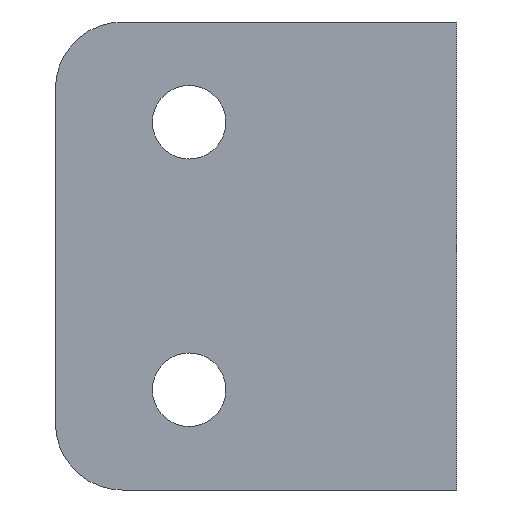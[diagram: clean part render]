
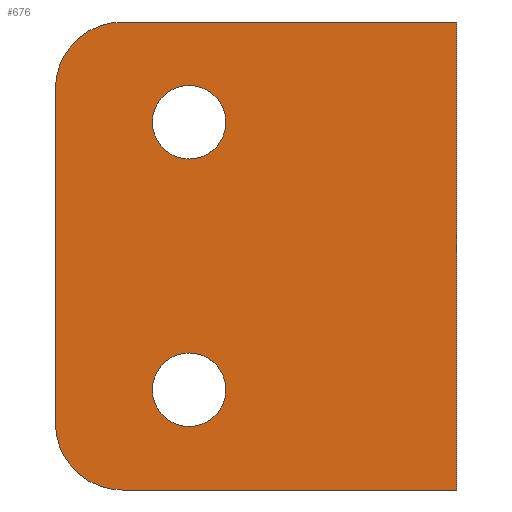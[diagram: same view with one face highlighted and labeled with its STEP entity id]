
A CAD part, front view. The second image highlights one B-rep face of the part: STEP entity #676.
In plain terms, the highlighted planar face has unit normal (0, -1, 0).
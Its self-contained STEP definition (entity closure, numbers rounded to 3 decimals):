
#7 = VERTEX_POINT ( 'NONE', #314 ) ;
#9 = EDGE_CURVE ( 'NONE', #166, #853, #228, .T. ) ;
#15 = ORIENTED_EDGE ( 'NONE', *, *, #106, .T. ) ;
#20 = CIRCLE ( 'NONE', #595, 2.75 ) ;
#22 = VECTOR ( 'NONE', #753, 1000. ) ;
#37 = DIRECTION ( 'NONE',  ( -1., 0., 0. ) ) ;
#44 = DIRECTION ( 'NONE',  ( 0., 1., 0. ) ) ;
#45 = CARTESIAN_POINT ( 'NONE',  ( -30., 0., 12.5 ) ) ;
#47 = VECTOR ( 'NONE', #777, 1000. ) ;
#56 = CARTESIAN_POINT ( 'NONE',  ( -30., 0., 17.5 ) ) ;
#92 = EDGE_CURVE ( 'NONE', #724, #282, #346, .T. ) ;
#106 = EDGE_CURVE ( 'NONE', #586, #166, #142, .T. ) ;
#122 = DIRECTION ( 'NONE',  ( 0., 1., 0. ) ) ;
#142 = CIRCLE ( 'NONE', #246, 5. ) ;
#146 = CIRCLE ( 'NONE', #663, 5. ) ;
#151 = AXIS2_PLACEMENT_3D ( 'NONE', #565, #169, #624 ) ;
#154 = VERTEX_POINT ( 'NONE', #842 ) ;
#155 = DIRECTION ( 'NONE',  ( 1., 0., 0. ) ) ;
#166 = VERTEX_POINT ( 'NONE', #45 ) ;
#169 = DIRECTION ( 'NONE',  ( 0., 1., 0. ) ) ;
#181 = EDGE_CURVE ( 'NONE', #282, #724, #20, .T. ) ;
#203 = FACE_BOUND ( 'NONE', #678, .T. ) ;
#227 = ORIENTED_EDGE ( 'NONE', *, *, #387, .T. ) ;
#228 = LINE ( 'NONE', #56, #47 ) ;
#239 = PLANE ( 'NONE',  #597 ) ;
#246 = AXIS2_PLACEMENT_3D ( 'NONE', #495, #832, #37 ) ;
#265 = DIRECTION ( 'NONE',  ( 0., -1., 0. ) ) ;
#266 = DIRECTION ( 'NONE',  ( 0., 1., 0. ) ) ;
#269 = ORIENTED_EDGE ( 'NONE', *, *, #92, .T. ) ;
#270 = CARTESIAN_POINT ( 'NONE',  ( -20., 0., 7.25 ) ) ;
#275 = DIRECTION ( 'NONE',  ( 0., 0., 1. ) ) ;
#282 = VERTEX_POINT ( 'NONE', #641 ) ;
#284 = CARTESIAN_POINT ( 'NONE',  ( -30., 0., -12.5 ) ) ;
#304 = DIRECTION ( 'NONE',  ( 0., 0., 1. ) ) ;
#314 = CARTESIAN_POINT ( 'NONE',  ( -25., 0., -17.5 ) ) ;
#326 = ORIENTED_EDGE ( 'NONE', *, *, #562, .T. ) ;
#345 = ORIENTED_EDGE ( 'NONE', *, *, #866, .T. ) ;
#346 = CIRCLE ( 'NONE', #151, 2.75 ) ;
#350 = ORIENTED_EDGE ( 'NONE', *, *, #486, .T. ) ;
#353 = ORIENTED_EDGE ( 'NONE', *, *, #9, .T. ) ;
#375 = VERTEX_POINT ( 'NONE', #270 ) ;
#382 = LINE ( 'NONE', #426, #22 ) ;
#387 = EDGE_CURVE ( 'NONE', #797, #375, #578, .T. ) ;
#392 = DIRECTION ( 'NONE',  ( 0., 0., -1. ) ) ;
#400 = AXIS2_PLACEMENT_3D ( 'NONE', #579, #122, #275 ) ;
#417 = EDGE_LOOP ( 'NONE', ( #834, #15, #353, #345, #326, #465 ) ) ;
#426 = CARTESIAN_POINT ( 'NONE',  ( 0., 0., -17.5 ) ) ;
#434 = DIRECTION ( 'NONE',  ( 0., 1., 0. ) ) ;
#465 = ORIENTED_EDGE ( 'NONE', *, *, #476, .F. ) ;
#473 = LINE ( 'NONE', #786, #634 ) ;
#476 = EDGE_CURVE ( 'NONE', #154, #582, #473, .T. ) ;
#478 = EDGE_LOOP ( 'NONE', ( #762, #269 ) ) ;
#486 = EDGE_CURVE ( 'NONE', #375, #797, #654, .T. ) ;
#495 = CARTESIAN_POINT ( 'NONE',  ( -25., 0., 12.5 ) ) ;
#500 = CARTESIAN_POINT ( 'NONE',  ( -20., 0., -10. ) ) ;
#508 = VECTOR ( 'NONE', #155, 1000. ) ;
#562 = EDGE_CURVE ( 'NONE', #7, #582, #382, .T. ) ;
#565 = CARTESIAN_POINT ( 'NONE',  ( -20., 0., -10. ) ) ;
#578 = CIRCLE ( 'NONE', #704, 2.75 ) ;
#579 = CARTESIAN_POINT ( 'NONE',  ( -20., 0., 10. ) ) ;
#582 = VERTEX_POINT ( 'NONE', #818 ) ;
#586 = VERTEX_POINT ( 'NONE', #674 ) ;
#595 = AXIS2_PLACEMENT_3D ( 'NONE', #500, #44, #304 ) ;
#597 = AXIS2_PLACEMENT_3D ( 'NONE', #826, #434, #685 ) ;
#613 = CARTESIAN_POINT ( 'NONE',  ( 0., 0., 17.5 ) ) ;
#616 = EDGE_CURVE ( 'NONE', #586, #154, #675, .T. ) ;
#619 = CARTESIAN_POINT ( 'NONE',  ( -20., 0., 12.75 ) ) ;
#624 = DIRECTION ( 'NONE',  ( 0., 0., 1. ) ) ;
#634 = VECTOR ( 'NONE', #392, 1000. ) ;
#641 = CARTESIAN_POINT ( 'NONE',  ( -20., 0., -7.25 ) ) ;
#647 = CARTESIAN_POINT ( 'NONE',  ( -25., 0., -12.5 ) ) ;
#649 = DIRECTION ( 'NONE',  ( 0., 0., 1. ) ) ;
#654 = CIRCLE ( 'NONE', #400, 2.75 ) ;
#663 = AXIS2_PLACEMENT_3D ( 'NONE', #647, #265, #730 ) ;
#674 = CARTESIAN_POINT ( 'NONE',  ( -25., 0., 17.5 ) ) ;
#675 = LINE ( 'NONE', #613, #508 ) ;
#676 = ADVANCED_FACE ( 'NONE', ( #726, #203, #697 ), #239, .F. ) ;
#678 = EDGE_LOOP ( 'NONE', ( #227, #350 ) ) ;
#685 = DIRECTION ( 'NONE',  ( -1., 0., 0. ) ) ;
#697 = FACE_OUTER_BOUND ( 'NONE', #417, .T. ) ;
#704 = AXIS2_PLACEMENT_3D ( 'NONE', #731, #266, #649 ) ;
#724 = VERTEX_POINT ( 'NONE', #765 ) ;
#726 = FACE_BOUND ( 'NONE', #478, .T. ) ;
#730 = DIRECTION ( 'NONE',  ( -1., 0., 0. ) ) ;
#731 = CARTESIAN_POINT ( 'NONE',  ( -20., 0., 10. ) ) ;
#753 = DIRECTION ( 'NONE',  ( 1., 0., 0. ) ) ;
#762 = ORIENTED_EDGE ( 'NONE', *, *, #181, .T. ) ;
#765 = CARTESIAN_POINT ( 'NONE',  ( -20., 0., -12.75 ) ) ;
#777 = DIRECTION ( 'NONE',  ( 0., 0., -1. ) ) ;
#786 = CARTESIAN_POINT ( 'NONE',  ( 0., 0., 17.5 ) ) ;
#797 = VERTEX_POINT ( 'NONE', #619 ) ;
#818 = CARTESIAN_POINT ( 'NONE',  ( 0., 0., -17.5 ) ) ;
#826 = CARTESIAN_POINT ( 'NONE',  ( 0., 0., 17.5 ) ) ;
#832 = DIRECTION ( 'NONE',  ( 0., -1., 0. ) ) ;
#834 = ORIENTED_EDGE ( 'NONE', *, *, #616, .F. ) ;
#842 = CARTESIAN_POINT ( 'NONE',  ( 0., 0., 17.5 ) ) ;
#853 = VERTEX_POINT ( 'NONE', #284 ) ;
#866 = EDGE_CURVE ( 'NONE', #853, #7, #146, .T. ) ;
